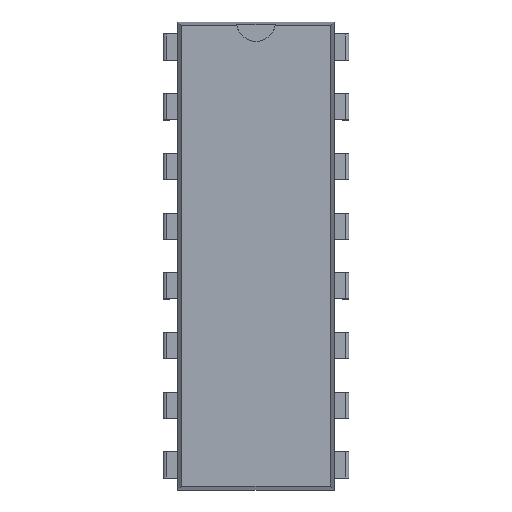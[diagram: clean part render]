
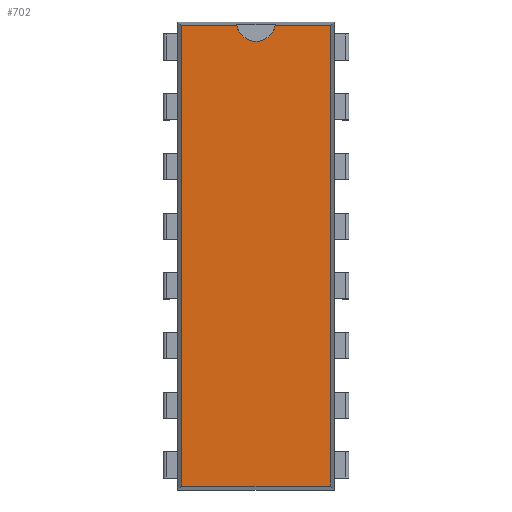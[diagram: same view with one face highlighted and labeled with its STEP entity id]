
A CAD part, top view. The second image highlights one B-rep face of the part: STEP entity #702.
In plain terms, the highlighted planar face has unit normal (0, 0, 1).
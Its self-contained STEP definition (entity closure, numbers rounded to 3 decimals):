
#141 = PLANE('',#142);
#142 = AXIS2_PLACEMENT_3D('',#143,#144,#145);
#143 = CARTESIAN_POINT('',(-3.239,-9.96,3.665));
#144 = DIRECTION('',(0.997,0.,
    -0.08));
#145 = DIRECTION('',(0.,1.,0.));
#227 = PLANE('',#228);
#228 = AXIS2_PLACEMENT_3D('',#229,#230,#231);
#229 = CARTESIAN_POINT('',(-3.323,-9.877,3.665));
#230 = DIRECTION('',(0.,0.997,-0.08));
#231 = DIRECTION('',(-1.,-0.,-0.));
#324 = VERTEX_POINT('',#325);
#325 = CARTESIAN_POINT('',(-3.156,-9.794,4.7));
#348 = VERTEX_POINT('',#349);
#349 = CARTESIAN_POINT('',(-3.156,9.794,4.7));
#363 = PLANE('',#364);
#364 = AXIS2_PLACEMENT_3D('',#365,#366,#367);
#365 = CARTESIAN_POINT('',(-3.323,9.877,3.665));
#366 = DIRECTION('',(0.,0.997,0.08));
#367 = DIRECTION('',(-1.,0.,0.));
#375 = EDGE_CURVE('',#324,#348,#376,.T.);
#376 = SURFACE_CURVE('',#377,(#381,#388),.PCURVE_S1.);
#377 = LINE('',#378,#379);
#378 = CARTESIAN_POINT('',(-3.156,-9.96,4.7));
#379 = VECTOR('',#380,1.);
#380 = DIRECTION('',(0.,1.,0.));
#381 = PCURVE('',#141,#382);
#382 = DEFINITIONAL_REPRESENTATION('',(#383),#387);
#383 = LINE('',#384,#385);
#384 = CARTESIAN_POINT('',(0.,1.038));
#385 = VECTOR('',#386,1.);
#386 = DIRECTION('',(1.,0.));
#387 = ( GEOMETRIC_REPRESENTATION_CONTEXT(2) 
PARAMETRIC_REPRESENTATION_CONTEXT() REPRESENTATION_CONTEXT('2D SPACE',''
  ) );
#388 = PCURVE('',#389,#394);
#389 = PLANE('',#390);
#390 = AXIS2_PLACEMENT_3D('',#391,#392,#393);
#391 = CARTESIAN_POINT('',(-3.323,-9.96,4.7));
#392 = DIRECTION('',(0.,0.,1.));
#393 = DIRECTION('',(1.,0.,0.));
#394 = DEFINITIONAL_REPRESENTATION('',(#395),#399);
#395 = LINE('',#396,#397);
#396 = CARTESIAN_POINT('',(0.166,0.));
#397 = VECTOR('',#398,1.);
#398 = DIRECTION('',(0.,1.));
#399 = ( GEOMETRIC_REPRESENTATION_CONTEXT(2) 
PARAMETRIC_REPRESENTATION_CONTEXT() REPRESENTATION_CONTEXT('2D SPACE',''
  ) );
#517 = PLANE('',#518);
#518 = AXIS2_PLACEMENT_3D('',#519,#520,#521);
#519 = CARTESIAN_POINT('',(3.239,-9.96,3.665));
#520 = DIRECTION('',(0.997,0.,0.08
    ));
#521 = DIRECTION('',(0.,1.,0.));
#584 = VERTEX_POINT('',#585);
#585 = CARTESIAN_POINT('',(3.156,-9.794,4.7));
#606 = EDGE_CURVE('',#324,#584,#607,.T.);
#607 = SURFACE_CURVE('',#608,(#612,#619),.PCURVE_S1.);
#608 = LINE('',#609,#610);
#609 = CARTESIAN_POINT('',(-3.323,-9.794,4.7));
#610 = VECTOR('',#611,1.);
#611 = DIRECTION('',(1.,0.,0.));
#612 = PCURVE('',#227,#613);
#613 = DEFINITIONAL_REPRESENTATION('',(#614),#618);
#614 = LINE('',#615,#616);
#615 = CARTESIAN_POINT('',(-0.,1.038));
#616 = VECTOR('',#617,1.);
#617 = DIRECTION('',(-1.,0.));
#618 = ( GEOMETRIC_REPRESENTATION_CONTEXT(2) 
PARAMETRIC_REPRESENTATION_CONTEXT() REPRESENTATION_CONTEXT('2D SPACE',''
  ) );
#619 = PCURVE('',#389,#620);
#620 = DEFINITIONAL_REPRESENTATION('',(#621),#625);
#621 = LINE('',#622,#623);
#622 = CARTESIAN_POINT('',(0.,0.166));
#623 = VECTOR('',#624,1.);
#624 = DIRECTION('',(1.,0.));
#625 = ( GEOMETRIC_REPRESENTATION_CONTEXT(2) 
PARAMETRIC_REPRESENTATION_CONTEXT() REPRESENTATION_CONTEXT('2D SPACE',''
  ) );
#702 = ADVANCED_FACE('',(#703),#389,.T.);
#703 = FACE_BOUND('',#704,.T.);
#704 = EDGE_LOOP('',(#705,#706,#707,#730,#753,#782));
#705 = ORIENTED_EDGE('',*,*,#375,.F.);
#706 = ORIENTED_EDGE('',*,*,#606,.T.);
#707 = ORIENTED_EDGE('',*,*,#708,.T.);
#708 = EDGE_CURVE('',#584,#709,#711,.T.);
#709 = VERTEX_POINT('',#710);
#710 = CARTESIAN_POINT('',(3.156,9.794,4.7));
#711 = SURFACE_CURVE('',#712,(#716,#723),.PCURVE_S1.);
#712 = LINE('',#713,#714);
#713 = CARTESIAN_POINT('',(3.156,-9.96,4.7));
#714 = VECTOR('',#715,1.);
#715 = DIRECTION('',(0.,1.,0.));
#716 = PCURVE('',#389,#717);
#717 = DEFINITIONAL_REPRESENTATION('',(#718),#722);
#718 = LINE('',#719,#720);
#719 = CARTESIAN_POINT('',(6.479,0.));
#720 = VECTOR('',#721,1.);
#721 = DIRECTION('',(0.,1.));
#722 = ( GEOMETRIC_REPRESENTATION_CONTEXT(2) 
PARAMETRIC_REPRESENTATION_CONTEXT() REPRESENTATION_CONTEXT('2D SPACE',''
  ) );
#723 = PCURVE('',#517,#724);
#724 = DEFINITIONAL_REPRESENTATION('',(#725),#729);
#725 = LINE('',#726,#727);
#726 = CARTESIAN_POINT('',(0.,1.038));
#727 = VECTOR('',#728,1.);
#728 = DIRECTION('',(1.,0.));
#729 = ( GEOMETRIC_REPRESENTATION_CONTEXT(2) 
PARAMETRIC_REPRESENTATION_CONTEXT() REPRESENTATION_CONTEXT('2D SPACE',''
  ) );
#730 = ORIENTED_EDGE('',*,*,#731,.F.);
#731 = EDGE_CURVE('',#732,#709,#734,.T.);
#732 = VERTEX_POINT('',#733);
#733 = CARTESIAN_POINT('',(0.814,9.794,4.7));
#734 = SURFACE_CURVE('',#735,(#739,#746),.PCURVE_S1.);
#735 = LINE('',#736,#737);
#736 = CARTESIAN_POINT('',(-3.323,9.794,4.7));
#737 = VECTOR('',#738,1.);
#738 = DIRECTION('',(1.,0.,0.));
#739 = PCURVE('',#389,#740);
#740 = DEFINITIONAL_REPRESENTATION('',(#741),#745);
#741 = LINE('',#742,#743);
#742 = CARTESIAN_POINT('',(0.,19.754));
#743 = VECTOR('',#744,1.);
#744 = DIRECTION('',(1.,0.));
#745 = ( GEOMETRIC_REPRESENTATION_CONTEXT(2) 
PARAMETRIC_REPRESENTATION_CONTEXT() REPRESENTATION_CONTEXT('2D SPACE',''
  ) );
#746 = PCURVE('',#363,#747);
#747 = DEFINITIONAL_REPRESENTATION('',(#748),#752);
#748 = LINE('',#749,#750);
#749 = CARTESIAN_POINT('',(-0.,1.038));
#750 = VECTOR('',#751,1.);
#751 = DIRECTION('',(-1.,0.));
#752 = ( GEOMETRIC_REPRESENTATION_CONTEXT(2) 
PARAMETRIC_REPRESENTATION_CONTEXT() REPRESENTATION_CONTEXT('2D SPACE',''
  ) );
#753 = ORIENTED_EDGE('',*,*,#754,.F.);
#754 = EDGE_CURVE('',#755,#732,#757,.T.);
#755 = VERTEX_POINT('',#756);
#756 = CARTESIAN_POINT('',(-0.814,9.794,4.7));
#757 = SURFACE_CURVE('',#758,(#763,#770),.PCURVE_S1.);
#758 = CIRCLE('',#759,0.831);
#759 = AXIS2_PLACEMENT_3D('',#760,#761,#762);
#760 = CARTESIAN_POINT('',(0.,9.96,4.7));
#761 = DIRECTION('',(0.,0.,1.));
#762 = DIRECTION('',(1.,0.,0.));
#763 = PCURVE('',#389,#764);
#764 = DEFINITIONAL_REPRESENTATION('',(#765),#769);
#765 = CIRCLE('',#766,0.831);
#766 = AXIS2_PLACEMENT_2D('',#767,#768);
#767 = CARTESIAN_POINT('',(3.323,19.92));
#768 = DIRECTION('',(1.,0.));
#769 = ( GEOMETRIC_REPRESENTATION_CONTEXT(2) 
PARAMETRIC_REPRESENTATION_CONTEXT() REPRESENTATION_CONTEXT('2D SPACE',''
  ) );
#770 = PCURVE('',#771,#776);
#771 = CYLINDRICAL_SURFACE('',#772,0.831);
#772 = AXIS2_PLACEMENT_3D('',#773,#774,#775);
#773 = CARTESIAN_POINT('',(0.,9.96,4.23));
#774 = DIRECTION('',(0.,0.,1.));
#775 = DIRECTION('',(1.,0.,0.));
#776 = DEFINITIONAL_REPRESENTATION('',(#777),#781);
#777 = LINE('',#778,#779);
#778 = CARTESIAN_POINT('',(0.,0.47));
#779 = VECTOR('',#780,1.);
#780 = DIRECTION('',(1.,0.));
#781 = ( GEOMETRIC_REPRESENTATION_CONTEXT(2) 
PARAMETRIC_REPRESENTATION_CONTEXT() REPRESENTATION_CONTEXT('2D SPACE',''
  ) );
#782 = ORIENTED_EDGE('',*,*,#783,.F.);
#783 = EDGE_CURVE('',#348,#755,#784,.T.);
#784 = SURFACE_CURVE('',#785,(#789,#796),.PCURVE_S1.);
#785 = LINE('',#786,#787);
#786 = CARTESIAN_POINT('',(-3.323,9.794,4.7));
#787 = VECTOR('',#788,1.);
#788 = DIRECTION('',(1.,0.,0.));
#789 = PCURVE('',#389,#790);
#790 = DEFINITIONAL_REPRESENTATION('',(#791),#795);
#791 = LINE('',#792,#793);
#792 = CARTESIAN_POINT('',(0.,19.754));
#793 = VECTOR('',#794,1.);
#794 = DIRECTION('',(1.,0.));
#795 = ( GEOMETRIC_REPRESENTATION_CONTEXT(2) 
PARAMETRIC_REPRESENTATION_CONTEXT() REPRESENTATION_CONTEXT('2D SPACE',''
  ) );
#796 = PCURVE('',#363,#797);
#797 = DEFINITIONAL_REPRESENTATION('',(#798),#802);
#798 = LINE('',#799,#800);
#799 = CARTESIAN_POINT('',(-0.,1.038));
#800 = VECTOR('',#801,1.);
#801 = DIRECTION('',(-1.,0.));
#802 = ( GEOMETRIC_REPRESENTATION_CONTEXT(2) 
PARAMETRIC_REPRESENTATION_CONTEXT() REPRESENTATION_CONTEXT('2D SPACE',''
  ) );
